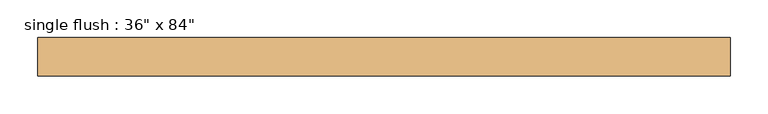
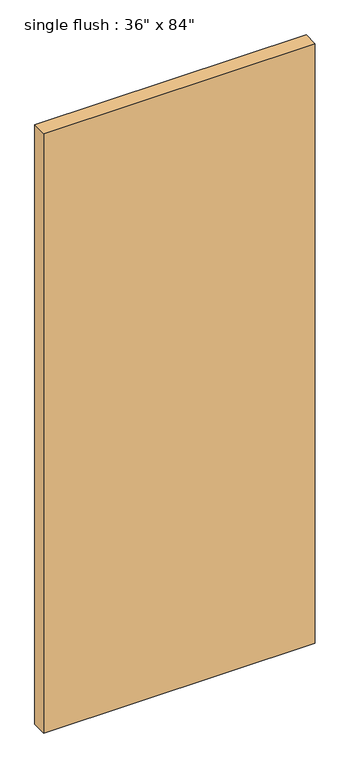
"""IFC4 building model written with IfcOpenShell, lengths in millimetres: door geometry."""

from ifc_helpers import new_model, si_unit, origin, origin_with_axes, place, context, project, spatial, polyline, outline, extrude, source, transform, mapped, element, save


def door_af9f61dc(model_context):
    return source(origin(), model_context, "Body", "SweptSolid", [
        extrude(outline(polyline([(457.2, 50.8), (-457.2, 50.8), (-457.2, 101.6), (457.2, 101.6), (457.2, 50.8)])), origin_with_axes(), (0.0, 0.0, 1.0), 2133.6),
    ])


if __name__ == "__main__":
    model = new_model("IFC4")
    model_context = context("Model", 3, world=origin())
    ifc_project = project(units=[si_unit("LENGTHUNIT", "METRE", prefix="MILLI")], contexts=[model_context])
    site = spatial("IfcSite", under=ifc_project)
    building = spatial("IfcBuilding", under=site)
    placement = place(None, origin())
    door_shape = door_af9f61dc(model_context)
    element("IfcDoor", 1, ObjectType="single flush : 36\" x 84\"", at=placement, inside=building, context=model_context, shape_type="MappedRepresentation", body=[
        mapped(door_shape, transform((0.0, 0.0, 0.0), x_axis=(1.0, 0.0, 0.0), y_axis=(0.0, 1.0, 0.0), z_axis=(0.0, 0.0, 1.0))),
    ])
    save(model, "model.ifc")
